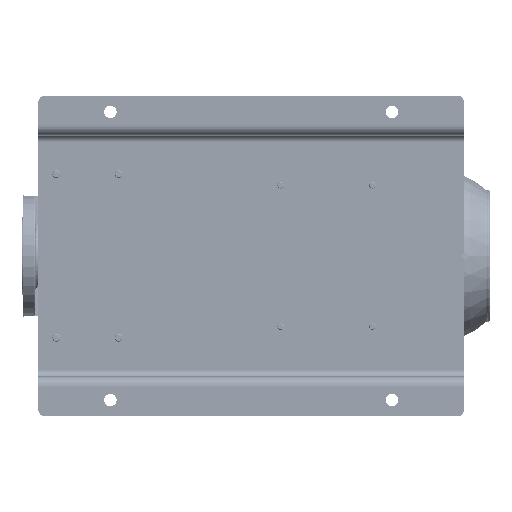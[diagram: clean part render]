
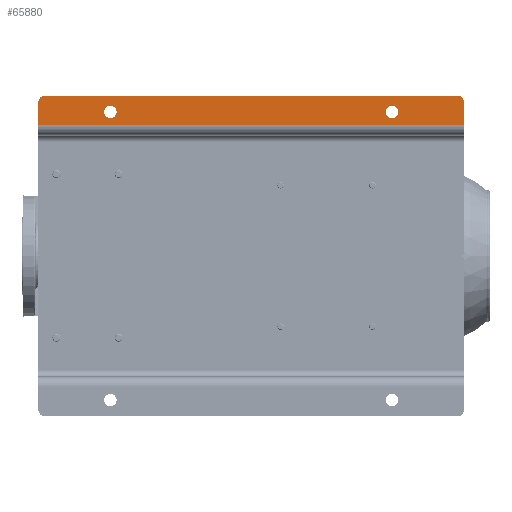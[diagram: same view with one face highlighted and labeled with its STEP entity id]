
A CAD part, front view. The second image highlights one B-rep face of the part: STEP entity #65880.
In plain terms, the highlighted planar face has unit normal (0, -1, 0).
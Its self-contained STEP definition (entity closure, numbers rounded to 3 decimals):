
#295 = EDGE_CURVE ( 'NONE', #83735, #136676, #14373, .T. ) ;
#1254 = CARTESIAN_POINT ( 'NONE',  ( 474.5, 0., -110. ) ) ;
#5784 = DIRECTION ( 'NONE',  ( 0., 0., -1. ) ) ;
#8271 = VERTEX_POINT ( 'NONE', #50082 ) ;
#9042 = LINE ( 'NONE', #139225, #111261 ) ;
#14373 = CIRCLE ( 'NONE', #19846, 10. ) ;
#19846 = AXIS2_PLACEMENT_3D ( 'NONE', #151674, #167751, #51227 ) ;
#20160 = DIRECTION ( 'NONE',  ( 0., 0., 1. ) ) ;
#23250 = VERTEX_POINT ( 'NONE', #27620 ) ;
#27620 = CARTESIAN_POINT ( 'NONE',  ( 480., 0., 0. ) ) ;
#29973 = DIRECTION ( 'NONE',  ( 0., 0., -1. ) ) ;
#33067 = PLANE ( 'NONE',  #130288 ) ;
#35510 = EDGE_CURVE ( 'NONE', #136676, #115639, #136710, .T. ) ;
#35815 = EDGE_LOOP ( 'NONE', ( #72414, #135811, #54396, #143868, #67649, #76384 ) ) ;
#36589 = DIRECTION ( 'NONE',  ( 0., 0., -1. ) ) ;
#42141 = DIRECTION ( 'NONE',  ( 0., 1., 0. ) ) ;
#46545 = ORIENTED_EDGE ( 'NONE', *, *, #73536, .T. ) ;
#48337 = FACE_BOUND ( 'NONE', #54647, .T. ) ;
#50082 = CARTESIAN_POINT ( 'NONE',  ( 455.5, 0., -110. ) ) ;
#50533 = EDGE_CURVE ( 'NONE', #150101, #155985, #70492, .T. ) ;
#51227 = DIRECTION ( 'NONE',  ( 0., 0., -1. ) ) ;
#51246 = CARTESIAN_POINT ( 'NONE',  ( 465., 0., -110. ) ) ;
#54396 = ORIENTED_EDGE ( 'NONE', *, *, #134902, .T. ) ;
#54647 = EDGE_LOOP ( 'NONE', ( #46545, #166132 ) ) ;
#56594 = DIRECTION ( 'NONE',  ( 1., 0., 0. ) ) ;
#57175 = CARTESIAN_POINT ( 'NONE',  ( 480., 0., -10. ) ) ;
#57912 = AXIS2_PLACEMENT_3D ( 'NONE', #51246, #74288, #103127 ) ;
#58298 = VERTEX_POINT ( 'NONE', #1254 ) ;
#59231 = CARTESIAN_POINT ( 'NONE',  ( 455.5, 0., -540. ) ) ;
#60986 = CARTESIAN_POINT ( 'NONE',  ( 490., 0., -650. ) ) ;
#61252 = CARTESIAN_POINT ( 'NONE',  ( 490., 0., -640. ) ) ;
#65105 = ORIENTED_EDGE ( 'NONE', *, *, #50533, .T. ) ;
#65880 = ADVANCED_FACE ( 'NONE', ( #48337, #97716, #149629 ), #33067, .T. ) ;
#66574 = VECTOR ( 'NONE', #56594, 1000. ) ;
#67649 = ORIENTED_EDGE ( 'NONE', *, *, #35510, .T. ) ;
#69375 = LINE ( 'NONE', #121242, #66574 ) ;
#69864 = CARTESIAN_POINT ( 'NONE',  ( 445., 0., -650. ) ) ;
#70492 = CIRCLE ( 'NONE', #92206, 9.5 ) ;
#71219 = VERTEX_POINT ( 'NONE', #92502 ) ;
#72414 = ORIENTED_EDGE ( 'NONE', *, *, #96298, .F. ) ;
#73536 = EDGE_CURVE ( 'NONE', #8271, #58298, #109873, .T. ) ;
#73754 = DIRECTION ( 'NONE',  ( 1., 0., 0. ) ) ;
#74288 = DIRECTION ( 'NONE',  ( 0., 1., 0. ) ) ;
#74725 = DIRECTION ( 'NONE',  ( 0., 0., -1. ) ) ;
#76366 = EDGE_CURVE ( 'NONE', #155985, #150101, #167477, .T. ) ;
#76384 = ORIENTED_EDGE ( 'NONE', *, *, #152989, .T. ) ;
#80110 = DIRECTION ( 'NONE',  ( 0., 0., -1. ) ) ;
#81508 = ORIENTED_EDGE ( 'NONE', *, *, #76366, .T. ) ;
#82244 = EDGE_CURVE ( 'NONE', #71219, #160048, #94515, .T. ) ;
#83240 = CARTESIAN_POINT ( 'NONE',  ( 465., 0., -110. ) ) ;
#83357 = EDGE_LOOP ( 'NONE', ( #65105, #81508 ) ) ;
#83735 = VERTEX_POINT ( 'NONE', #139557 ) ;
#92206 = AXIS2_PLACEMENT_3D ( 'NONE', #140340, #139532, #36589 ) ;
#92502 = CARTESIAN_POINT ( 'NONE',  ( 445., 0., 0. ) ) ;
#94515 = LINE ( 'NONE', #69864, #168304 ) ;
#94816 = CIRCLE ( 'NONE', #116555, 9.5 ) ;
#96298 = EDGE_CURVE ( 'NONE', #71219, #23250, #9042, .T. ) ;
#97716 = FACE_BOUND ( 'NONE', #83357, .T. ) ;
#103127 = DIRECTION ( 'NONE',  ( 0., 0., -1. ) ) ;
#109873 = CIRCLE ( 'NONE', #57912, 9.5 ) ;
#111261 = VECTOR ( 'NONE', #73754, 1000. ) ;
#112146 = CARTESIAN_POINT ( 'NONE',  ( 429., 0., -650. ) ) ;
#115639 = VERTEX_POINT ( 'NONE', #150339 ) ;
#116555 = AXIS2_PLACEMENT_3D ( 'NONE', #83240, #158152, #5784 ) ;
#121242 = CARTESIAN_POINT ( 'NONE',  ( 429., 0., -650. ) ) ;
#123150 = AXIS2_PLACEMENT_3D ( 'NONE', #57175, #132897, #29973 ) ;
#124024 = AXIS2_PLACEMENT_3D ( 'NONE', #158665, #42141, #145897 ) ;
#125828 = CIRCLE ( 'NONE', #123150, 10. ) ;
#127156 = EDGE_CURVE ( 'NONE', #58298, #8271, #94816, .T. ) ;
#130288 = AXIS2_PLACEMENT_3D ( 'NONE', #112146, #164039, #74725 ) ;
#131663 = CARTESIAN_POINT ( 'NONE',  ( 474.5, 0., -540. ) ) ;
#132897 = DIRECTION ( 'NONE',  ( 0., -1., 0. ) ) ;
#134902 = EDGE_CURVE ( 'NONE', #160048, #83735, #69375, .T. ) ;
#135811 = ORIENTED_EDGE ( 'NONE', *, *, #82244, .T. ) ;
#136676 = VERTEX_POINT ( 'NONE', #61252 ) ;
#136710 = LINE ( 'NONE', #60986, #156796 ) ;
#139225 = CARTESIAN_POINT ( 'NONE',  ( 429., 0., 0. ) ) ;
#139532 = DIRECTION ( 'NONE',  ( 0., 1., 0. ) ) ;
#139557 = CARTESIAN_POINT ( 'NONE',  ( 480., 0., -650. ) ) ;
#140340 = CARTESIAN_POINT ( 'NONE',  ( 465., 0., -540. ) ) ;
#143868 = ORIENTED_EDGE ( 'NONE', *, *, #295, .T. ) ;
#145897 = DIRECTION ( 'NONE',  ( 0., 0., -1. ) ) ;
#149629 = FACE_OUTER_BOUND ( 'NONE', #35815, .T. ) ;
#150101 = VERTEX_POINT ( 'NONE', #59231 ) ;
#150339 = CARTESIAN_POINT ( 'NONE',  ( 490., 0., -10. ) ) ;
#151674 = CARTESIAN_POINT ( 'NONE',  ( 480., 0., -640. ) ) ;
#152989 = EDGE_CURVE ( 'NONE', #115639, #23250, #125828, .T. ) ;
#155985 = VERTEX_POINT ( 'NONE', #131663 ) ;
#156796 = VECTOR ( 'NONE', #20160, 1000. ) ;
#158152 = DIRECTION ( 'NONE',  ( 0., 1., 0. ) ) ;
#158665 = CARTESIAN_POINT ( 'NONE',  ( 465., 0., -540. ) ) ;
#160048 = VERTEX_POINT ( 'NONE', #164260 ) ;
#164039 = DIRECTION ( 'NONE',  ( 0., -1., 0. ) ) ;
#164260 = CARTESIAN_POINT ( 'NONE',  ( 445., 0., -650. ) ) ;
#166132 = ORIENTED_EDGE ( 'NONE', *, *, #127156, .T. ) ;
#167477 = CIRCLE ( 'NONE', #124024, 9.5 ) ;
#167751 = DIRECTION ( 'NONE',  ( 0., -1., 0. ) ) ;
#168304 = VECTOR ( 'NONE', #80110, 1000. ) ;
